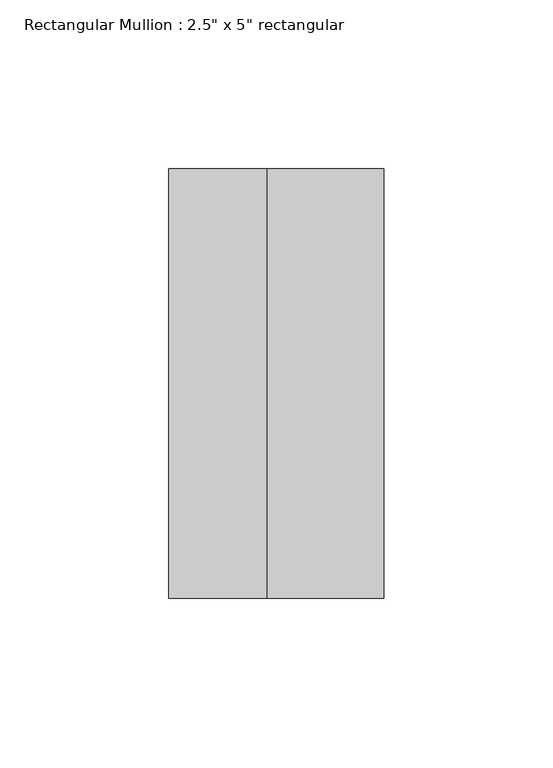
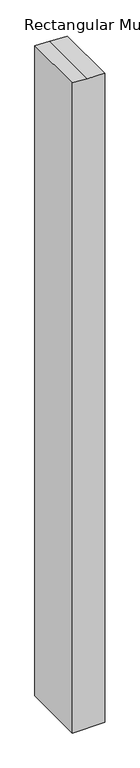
"""IFC4 building model written with IfcOpenShell, lengths in millimetres: member geometry."""

from ifc_helpers import new_model, si_unit, frame, origin, place, context, project, spatial, polyline, outline, extrude, source, transform, mapped, element, save


def member_9d221ad8(model_context):
    return source(origin(), model_context, "Body", "SweptSolid", [
        extrude(outline(polyline([(-64.8775557, 31.75), (-63.4449853, -2.6426951), (-62.232569, -31.75), (-1407.9643899, -31.75), (-1407.9643899, 31.75), (-64.8775557, 31.75)])), frame((0.0, -63.5, 0.0), z_axis=(0.0, 1.0, 0.0), x_axis=(0.0, 0.0, 1.0)), (0.0, 0.0, 1.0), 127.0),
    ])


if __name__ == "__main__":
    model = new_model("IFC4")
    model_context = context("Model", 3, world=origin())
    ifc_project = project(units=[si_unit("LENGTHUNIT", "METRE", prefix="MILLI")], contexts=[model_context])
    site = spatial("IfcSite", under=ifc_project)
    building = spatial("IfcBuilding", under=site)
    placement = place(None, origin())
    member_shape = member_9d221ad8(model_context)
    element("IfcMember", 1, ObjectType="Rectangular Mullion : 2.5\" x 5\" rectangular", at=placement, inside=building, context=model_context, shape_type="MappedRepresentation", body=[
        mapped(member_shape, transform((0.0, 0.0, 0.0), x_axis=(1.0, 0.0, 0.0), y_axis=(0.0, 1.0, 0.0), z_axis=(0.0, 0.0, 1.0))),
    ])
    save(model, "model.ifc")
